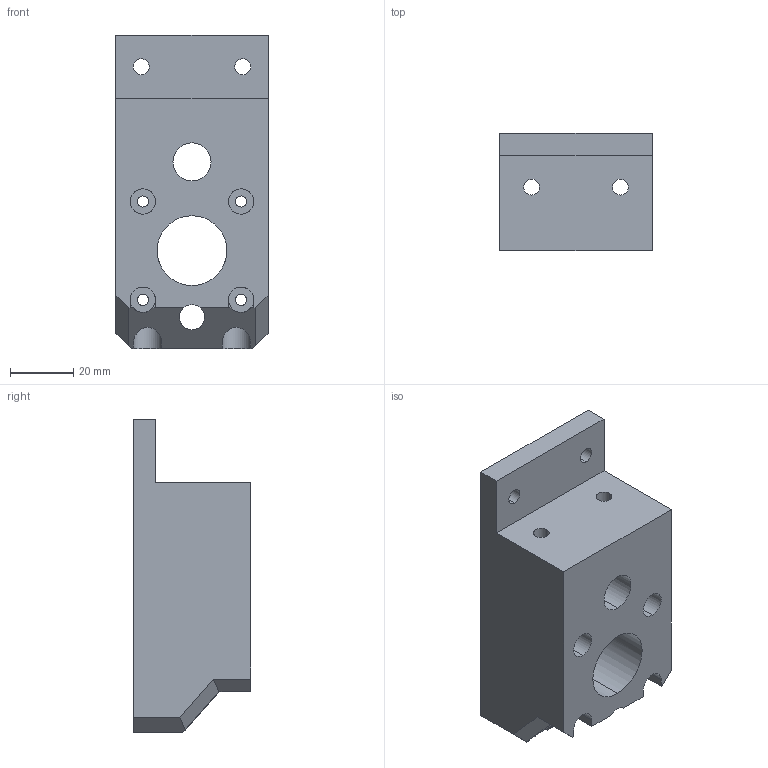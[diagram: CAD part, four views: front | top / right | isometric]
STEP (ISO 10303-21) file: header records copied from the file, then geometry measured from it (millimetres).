
FILE_DESCRIPTION (( 'STEP AP203' ), '1' );
FILE_NAME ('Stoika motor 2.STEP', '2023-07-14T06:19:55', ( '' ), ( '' ), 'SwSTEP 2.0', 'SolidWorks 2014', '' );
FILE_SCHEMA (( 'CONFIG_CONTROL_DESIGN' ));
Length unit declared in the file: millimetre
Products named in the file (1): Stoika motor 2
Bounding box: 48 x 37 x 99 mm (x, y, z)
Volume: 102906.3 mm3; surface area: 27307 mm2
Topology: 1 solids, 1 shells, 71 faces, 228 edges, 150 vertices
Faces by surface type: cylinder 38, plane 33
Entity records: 3317 total; most frequent: CARTESIAN_POINT 1190, ORIENTED_EDGE 456, DIRECTION 402, EDGE_CURVE 228, VERTEX_POINT 150, AXIS2_PLACEMENT_3D 142, LINE 118, VECTOR 118
